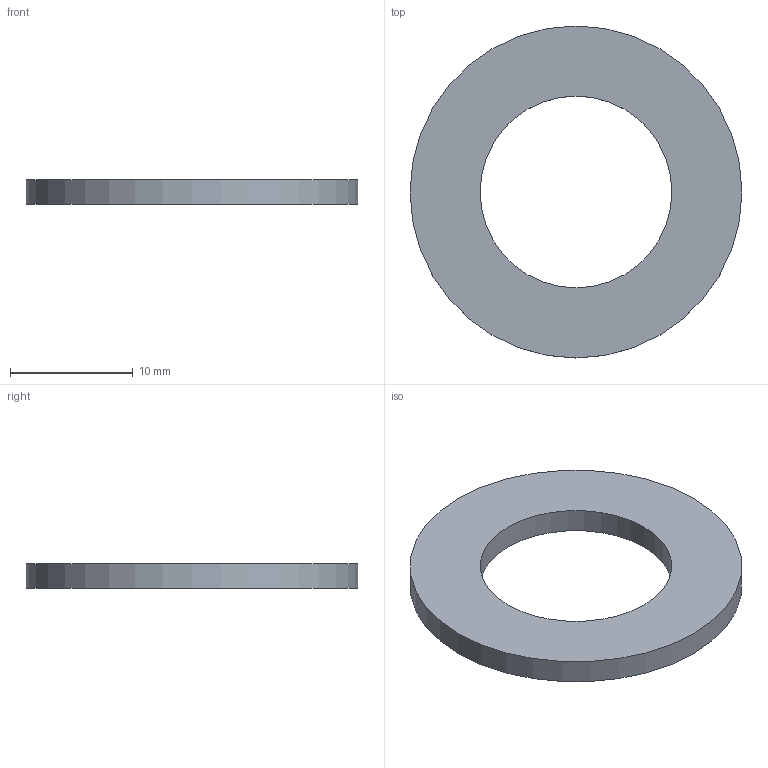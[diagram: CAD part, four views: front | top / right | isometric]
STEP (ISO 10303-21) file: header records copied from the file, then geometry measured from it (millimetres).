
FILE_DESCRIPTION(('FreeCAD Model'),'2;1');
FILE_NAME('Open CASCADE Shape Model','2026-11-20T08:25:38',('FreeCAD'),( 'FreeCAD'),'Open CASCADE STEP processor 7.8','FreeCAD','Unknown');
FILE_SCHEMA(('AUTOMOTIVE_DESIGN { 1 0 10303 214 1 1 1 1 }'));
Length unit declared in the file: millimetre
Products named in the file (1): Open CASCADE STEP translator 7.8 37
Bounding box: 27 x 27 x 2 mm (x, y, z)
Volume: 762.8 mm3; surface area: 1030.5 mm2
Topology: 1 solids, 1 shells, 4 faces, 6 edges, 4 vertices
Faces by surface type: cylinder 2, plane 2
Full cylindrical faces by diameter (mm): 15.6 x1, 27 x1
Entity records: 108 total; most frequent: DIRECTION 20, CARTESIAN_POINT 15, ORIENTED_EDGE 12, AXIS2_PLACEMENT_3D 9, FACE_BOUND 6, EDGE_LOOP 6, EDGE_CURVE 6, ADVANCED_FACE 4
